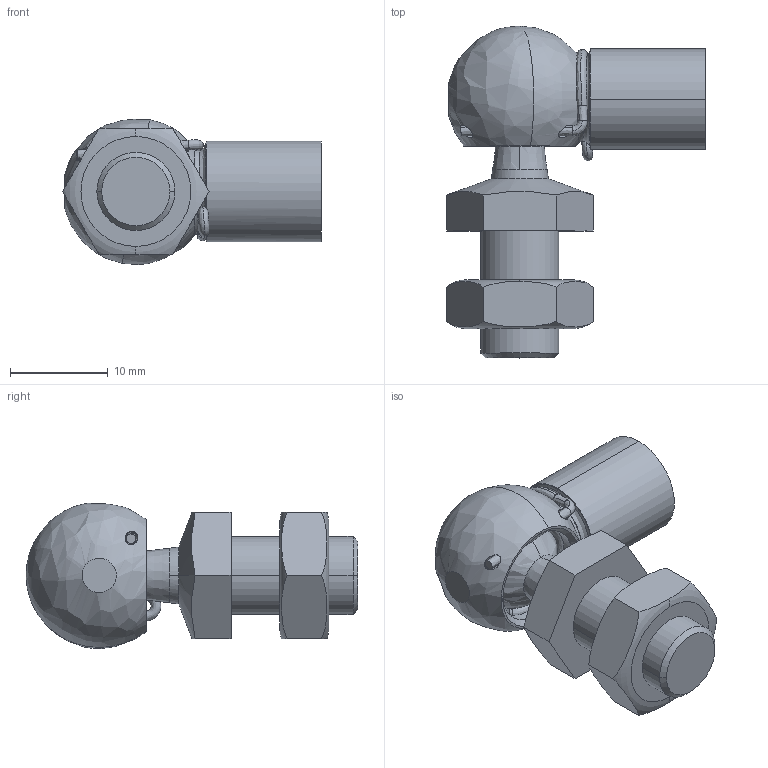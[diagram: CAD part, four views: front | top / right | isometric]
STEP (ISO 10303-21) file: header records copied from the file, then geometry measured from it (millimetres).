
FILE_DESCRIPTION (( 'STEP AP214' ), '1' );
FILE_NAME ('13.CS10M8L19.STEP', '2017-11-22T12:49:53', ( '' ), ( '' ), 'SwSTEP 2.0', 'SolidWorks 2016', '' );
FILE_SCHEMA (( 'AUTOMOTIVE_DESIGN' ));
Length unit declared in the file: millimetre
Products named in the file (1): 13.CS10M8L19
Bounding box: 26.51 x 34 x 14.87 mm (x, y, z)
Volume: 3939.5 mm3; surface area: 3078.6 mm2
Topology: 1 solids, 1 shells, 106 faces, 321 edges, 204 vertices
Faces by surface type: bspline 35, plane 28, cylinder 20, cone 19, torus 4
Entity records: 10534 total; most frequent: CARTESIAN_POINT 7993, ORIENTED_EDGE 608, DIRECTION 429, EDGE_CURVE 304, VERTEX_POINT 204, AXIS2_PLACEMENT_3D 182, EDGE_LOOP 120, B_SPLINE_CURVE_WITH_KNOTS 115
